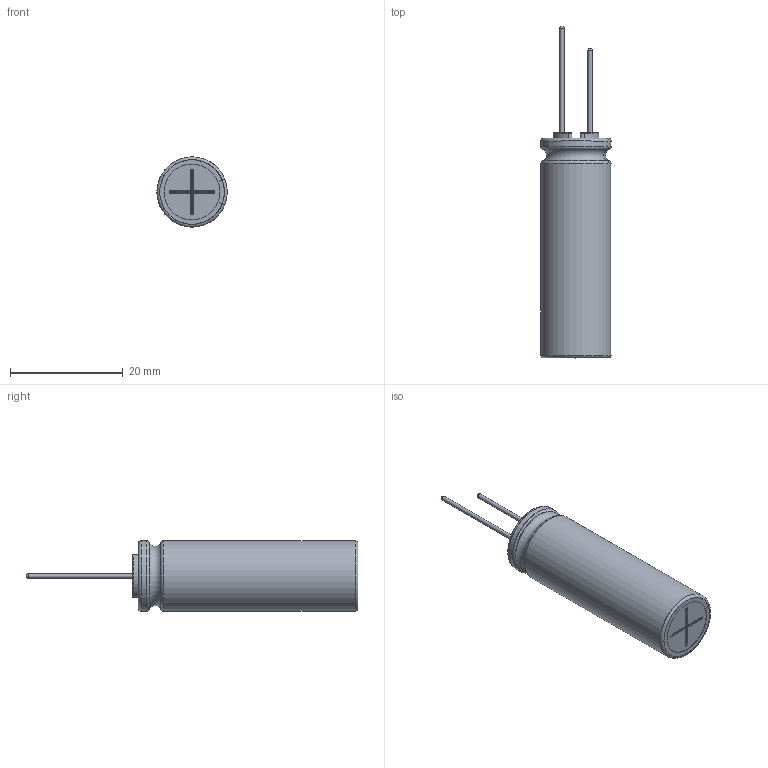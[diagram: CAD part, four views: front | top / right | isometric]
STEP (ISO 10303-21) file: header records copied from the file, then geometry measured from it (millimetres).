
FILE_DESCRIPTION(/* description */ (''),/* implementation_level */ '2;1');
FILE_NAME(/* name */ '12.5x40_Lead.stp',/* time_stamp */ '2017-09-05T14:33:54+09:00',/* author */ (''),/* organization */ (''),/* preprocessor_version */ 'ST-DEVELOPER v16',/* originating_system */ 'SIEMENS PLM Software NX 11.0',/* authorisation */ '');
FILE_SCHEMA (('AUTOMOTIVE_DESIGN { 1 0 10303 214 3 1 1 1 }'));
Length unit declared in the file: millimetre
Products named in the file (1): 12.5x40_Lead_0
Bounding box: 12.48 x 59 x 12.5 mm (x, y, z)
Volume: 4753.3 mm3; surface area: 5119.4 mm2
Topology: 3 solids, 3 shells, 132 faces, 326 edges, 203 vertices
Faces by surface type: cylinder 50, torus 35, plane 33, sphere 6, bspline 6, extrusion 2
Full cylindrical faces by diameter (mm): 0.8 x2, 12.3 x2
Entity records: 5211 total; most frequent: CARTESIAN_POINT 1361, DIRECTION 748, ORIENTED_EDGE 624, EDGE_CURVE 312, AXIS2_PLACEMENT_3D 311, VERTEX_POINT 200, CIRCLE 174, EDGE_LOOP 146
